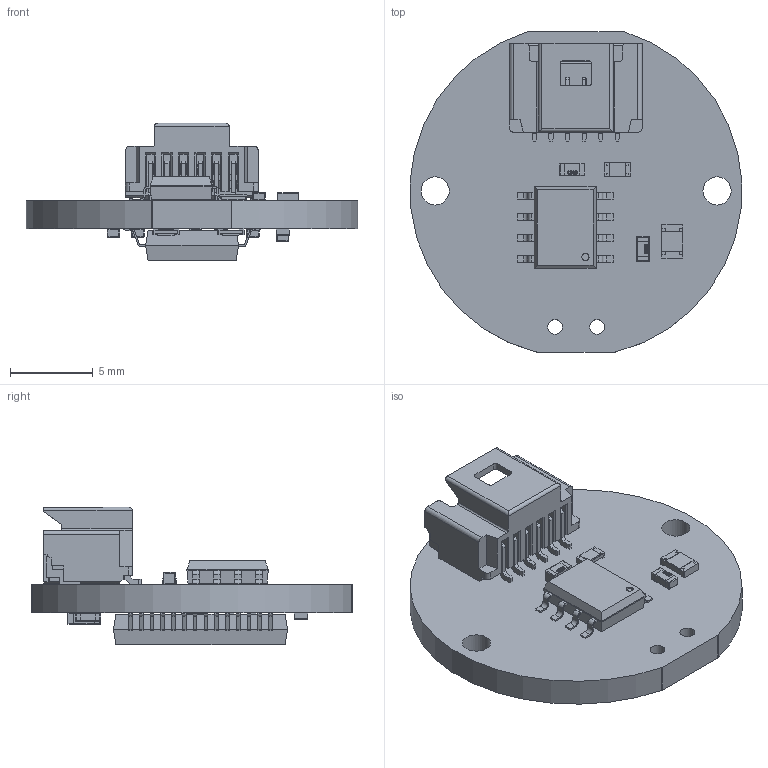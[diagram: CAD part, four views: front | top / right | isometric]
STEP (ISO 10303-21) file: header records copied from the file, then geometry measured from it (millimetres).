
FILE_DESCRIPTION(('Open CASCADE Model'),'2;1');
FILE_NAME('Open CASCADE Shape Model','2020-04-24T08:21:49',('Author'),( 'Open CASCADE'),'Open CASCADE STEP processor 6.8','Open CASCADE 6.8' ,'Unknown');
FILE_SCHEMA(('AUTOMOTIVE_DESIGN { 1 0 10303 214 1 1 1 1 }'));
Length unit declared in the file: millimetre
Products named in the file (29): PCB; Board; R4; SW3dPS-R0603; C9; C0603; C7; C0603_853146355; C1; C0805; C2; C3; C4; L1; SW3dPS-R0805; R2; R3; K1; 5015680607; Open CASCADE STEP translator 6.8 1.12.1.1; Open CASCADE STEP translator 6.8 1.12.1.2; IC1; SW3dPS-SSOP-28; C5; C6; IC2; SW3DPS-SO-8-DEFAULT; C8; R1
Assembly tree (37 placements, depth 4):
  PCB
    Board
    R4
      SW3dPS-R0603
    C9
      C0603
    C7
      C0603_853146355
    C1
      C0805
    C2
      C0603_853146355
    C3
      C0603_853146355
    C4
      C0603_853146355
    L1
      SW3dPS-R0805
    R2
      SW3dPS-R0603
    R3
      SW3dPS-R0603
    K1
      5015680607
        Open CASCADE STEP translator 6.8 1.12.1.1
        Open CASCADE STEP translator 6.8 1.12.1.2
    IC1
      SW3dPS-SSOP-28
    C5
      C0603_853146355
    C6
      C0603_853146355
    IC2
      SW3DPS-SO-8-DEFAULT
    C8
      C0603
    R1
      SW3dPS-R0603
Bounding box: 19.99 x 19.3 x 8.3 mm (x, y, z)
Volume: 733.3 mm3; surface area: 1592 mm2
Topology: 65 solids, 65 shells, 2462 faces, 6418 edges, 4130 vertices
Faces by surface type: plane 1420, bspline 541, cylinder 449, cone 52
Full cylindrical faces by diameter (mm): 0.9 x2, 1.7 x2
Entity records: 66938 total; most frequent: CARTESIAN_POINT 21762, ORIENTED_EDGE 8628, DIRECTION 7672, EDGE_CURVE 4314, LINE 3332, VECTOR 3332, VERTEX_POINT 2780, AXIS2_PLACEMENT_3D 2170
